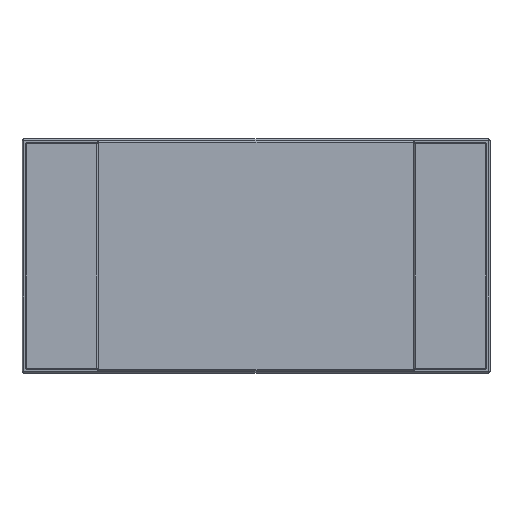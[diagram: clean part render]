
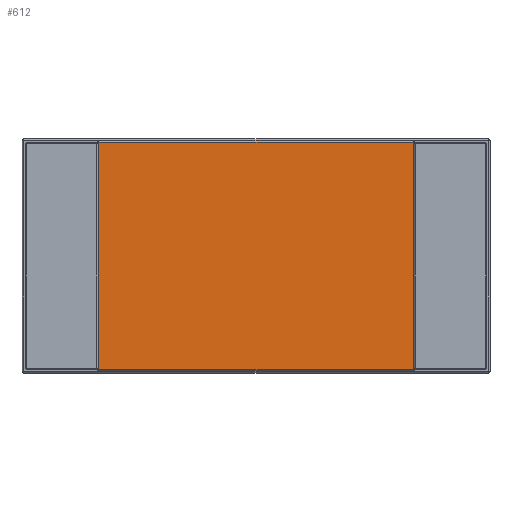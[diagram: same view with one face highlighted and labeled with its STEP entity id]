
A CAD part, top view. The second image highlights one B-rep face of the part: STEP entity #612.
In plain terms, the highlighted planar face has unit normal (0, 0, 1).
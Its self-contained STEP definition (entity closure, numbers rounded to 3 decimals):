
#612=ADVANCED_FACE('',(#1315),#1317,.T.);
#1315=FACE_BOUND('',#1316,.T.);
#1316=EDGE_LOOP('',(#1774,#1775,#1776,#1777));
#1317=PLANE('',#1318);
#1318=AXIS2_PLACEMENT_3D('',#1319,#1320,#1321);
#1319=CARTESIAN_POINT('',(0.,0.,0.61));
#1320=DIRECTION('',(0.,0.,1.));
#1321=DIRECTION('',(-1.,0.,0.));
#1774=ORIENTED_EDGE('',*,*,#2052,.T.);
#1775=ORIENTED_EDGE('',*,*,#2053,.T.);
#1776=ORIENTED_EDGE('',*,*,#2054,.T.);
#1777=ORIENTED_EDGE('',*,*,#2055,.T.);
#2052=EDGE_CURVE('',#2315,#2316,#2317,.T.);
#2053=EDGE_CURVE('',#2316,#2318,#2319,.T.);
#2054=EDGE_CURVE('',#2318,#2320,#2321,.T.);
#2055=EDGE_CURVE('',#2320,#2315,#2322,.T.);
#2315=VERTEX_POINT('',#2900);
#2316=VERTEX_POINT('',#2901);
#2317=LINE('',#2902,#2903);
#2318=VERTEX_POINT('',#2905);
#2319=LINE('',#2906,#2907);
#2320=VERTEX_POINT('',#2909);
#2321=LINE('',#2910,#2911);
#2322=LINE('',#2913,#2914);
#2900=CARTESIAN_POINT('',(-1.68,-1.216,0.61));
#2901=CARTESIAN_POINT('',(1.68,-1.216,0.61));
#2902=CARTESIAN_POINT('',(-1.68,-1.216,0.61));
#2903=VECTOR('',#2904,1.);
#2904=DIRECTION('',(1.,0.,0.));
#2905=CARTESIAN_POINT('',(1.68,1.216,0.61));
#2906=CARTESIAN_POINT('',(1.68,-1.216,0.61));
#2907=VECTOR('',#2908,1.);
#2908=DIRECTION('',(0.,1.,0.));
#2909=CARTESIAN_POINT('',(-1.68,1.216,0.61));
#2910=CARTESIAN_POINT('',(1.68,1.216,0.61));
#2911=VECTOR('',#2912,1.);
#2912=DIRECTION('',(-1.,0.,0.));
#2913=CARTESIAN_POINT('',(-1.68,1.216,0.61));
#2914=VECTOR('',#2915,1.);
#2915=DIRECTION('',(0.,-1.,0.));
